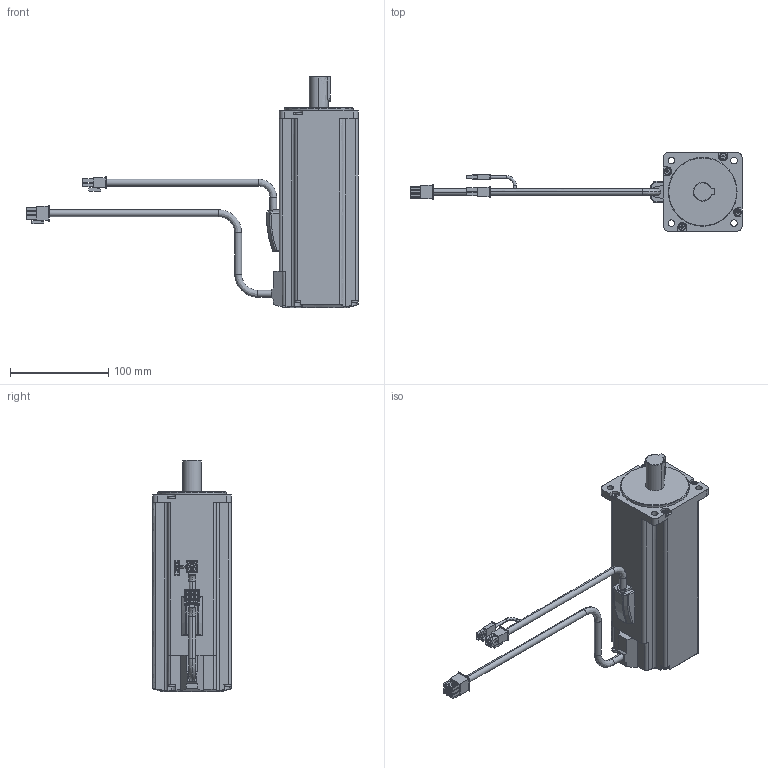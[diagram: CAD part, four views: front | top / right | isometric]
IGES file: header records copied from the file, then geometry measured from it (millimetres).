
Start section:  PTC IGES file: RSMZ-10BA3xT.igs
Global section: file name: RSMZ-10BA3xT.igs; native system: Pro/ENGINEER by Parametric Technology Corporation; preprocessor: 2004440; author: Administrator; organization: Unknown; date: 070904.190757; units: millimetre
Bounding box: 337.7 x 80 x 235 mm (x, y, z)
Volume: 1144280.4 mm3; surface area: 95910.8 mm2
Topology: 1 solids, 1 shells, 501 faces, 1267 edges, 822 vertices
Faces by surface type: bspline 361, revolution 140
